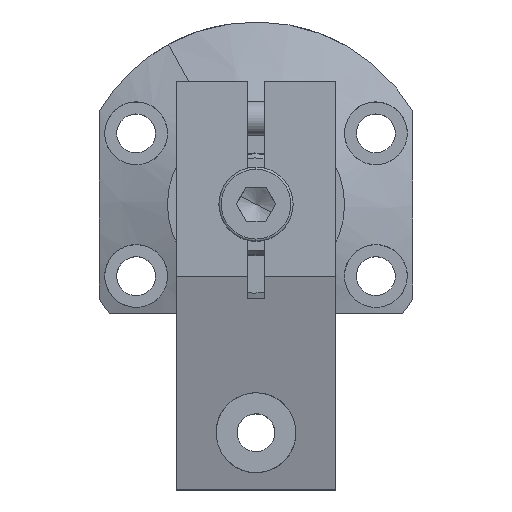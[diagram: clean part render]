
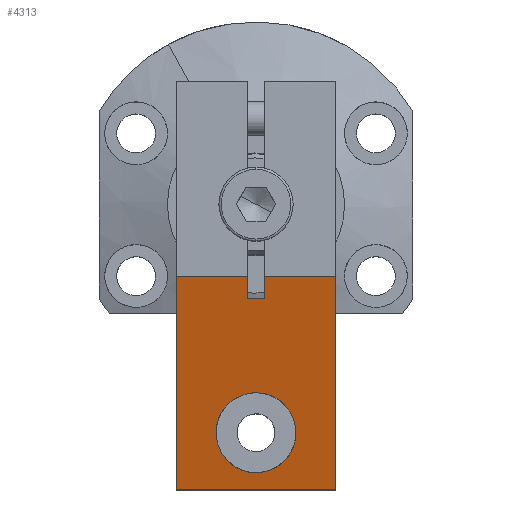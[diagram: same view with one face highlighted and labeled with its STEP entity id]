
A CAD part, top view. The second image highlights one B-rep face of the part: STEP entity #4313.
In plain terms, the highlighted planar face has unit normal (0, -0.259, 0.966) as drawn and (0, 0.259, 0.966) by its records, which use the part's own axes.
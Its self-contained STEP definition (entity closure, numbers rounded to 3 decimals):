
#3445=CARTESIAN_POINT('Line Origine',(-7.75,34.179,28.)) ;
#3449=CARTESIAN_POINT('Vertex',(-14.,34.179,28.)) ;
#3451=CARTESIAN_POINT('Vertex',(-1.5,34.179,28.)) ;
#3654=CARTESIAN_POINT('Vertex',(1.5,34.179,28.)) ;
#3657=CARTESIAN_POINT('Line Origine',(1.5,36.09,27.488)) ;
#3661=CARTESIAN_POINT('Vertex',(1.5,38.,26.976)) ;
#3712=CARTESIAN_POINT('Line Origine',(0.,38.,26.976)) ;
#3716=CARTESIAN_POINT('Vertex',(-1.5,38.,26.976)) ;
#3749=CARTESIAN_POINT('Vertex',(14.,34.179,28.)) ;
#3752=CARTESIAN_POINT('Line Origine',(7.75,34.179,28.)) ;
#3835=CARTESIAN_POINT('Control Point',(-6.143,64.856,19.78)) ;
#3836=CARTESIAN_POINT('Control Point',(-5.816,65.455,19.62)) ;
#3837=CARTESIAN_POINT('Control Point',(-5.415,66.016,19.469)) ;
#3838=CARTESIAN_POINT('Control Point',(-4.945,66.527,19.332)) ;
#3839=CARTESIAN_POINT('Control Point',(-3.368,67.864,18.974)) ;
#3840=CARTESIAN_POINT('Control Point',(-1.355,68.581,18.782)) ;
#3841=CARTESIAN_POINT('Control Point',(0.086,68.71,18.748)) ;
#3842=CARTESIAN_POINT('Control Point',(2.54,68.301,18.857)) ;
#3843=CARTESIAN_POINT('Control Point',(4.564,66.956,19.218)) ;
#3844=CARTESIAN_POINT('Control Point',(5.309,66.231,19.412)) ;
#3845=CARTESIAN_POINT('Control Point',(6.684,64.294,19.931)) ;
#3846=CARTESIAN_POINT('Control Point',(7.173,61.969,20.554)) ;
#3847=CARTESIAN_POINT('Control Point',(7.134,60.61,20.918)) ;
#3848=CARTESIAN_POINT('Control Point',(6.778,59.306,21.267)) ;
#3849=CARTESIAN_POINT('Control Point',(6.143,58.144,21.579)) ;
#3850=CARTESIAN_POINT('Vertex',(-6.143,64.856,19.78)) ;
#3852=CARTESIAN_POINT('Vertex',(6.143,58.144,21.579)) ;
#3882=CARTESIAN_POINT('Control Point',(6.143,58.144,21.579)) ;
#3883=CARTESIAN_POINT('Control Point',(5.498,56.964,21.895)) ;
#3884=CARTESIAN_POINT('Control Point',(4.565,55.93,22.172)) ;
#3885=CARTESIAN_POINT('Control Point',(3.382,55.134,22.385)) ;
#3886=CARTESIAN_POINT('Control Point',(1.307,54.406,22.58)) ;
#3887=CARTESIAN_POINT('Control Point',(-0.85,54.489,22.558)) ;
#3888=CARTESIAN_POINT('Control Point',(-1.604,54.623,22.522)) ;
#3889=CARTESIAN_POINT('Control Point',(-3.322,55.175,22.374)) ;
#3890=CARTESIAN_POINT('Control Point',(-4.782,56.233,22.091)) ;
#3891=CARTESIAN_POINT('Control Point',(-5.497,56.989,21.888)) ;
#3892=CARTESIAN_POINT('Control Point',(-6.759,58.93,21.368)) ;
#3893=CARTESIAN_POINT('Control Point',(-7.166,61.208,20.758)) ;
#3894=CARTESIAN_POINT('Control Point',(-7.102,62.503,20.411)) ;
#3895=CARTESIAN_POINT('Control Point',(-6.75,63.745,20.078)) ;
#3896=CARTESIAN_POINT('Control Point',(-6.143,64.856,19.78)) ;
#4168=CARTESIAN_POINT('Vertex',(14.,71.5,18.)) ;
#4171=CARTESIAN_POINT('Line Origine',(14.,52.84,23.)) ;
#4204=CARTESIAN_POINT('Vertex',(-14.,71.5,18.)) ;
#4207=CARTESIAN_POINT('Line Origine',(0.,71.5,18.)) ;
#4262=CARTESIAN_POINT('Line Origine',(-1.5,36.09,27.488)) ;
#4289=CARTESIAN_POINT('Axis2P3D Location',(0.,71.5,18.)) ;
#4294=CARTESIAN_POINT('Line Origine',(-14.,52.84,23.)) ;
#3446=DIRECTION('Vector Direction',(1.,0.,0.)) ;
#3658=DIRECTION('Vector Direction',(0.,0.966,-0.259)) ;
#3713=DIRECTION('Vector Direction',(1.,0.,0.)) ;
#3753=DIRECTION('Vector Direction',(1.,0.,0.)) ;
#4172=DIRECTION('Vector Direction',(0.,-0.966,0.259)) ;
#4208=DIRECTION('Vector Direction',(1.,0.,0.)) ;
#4263=DIRECTION('Vector Direction',(0.,0.966,-0.259)) ;
#4290=DIRECTION('Axis2P3D Direction',(-0.,0.259,0.966)) ;
#4291=DIRECTION('Axis2P3D XDirection',(0.,-0.966,0.259)) ;
#4295=DIRECTION('Vector Direction',(0.,-0.966,0.259)) ;
#4292=AXIS2_PLACEMENT_3D('Plane Axis2P3D',#4289,#4290,#4291) ;
#4300=ORIENTED_EDGE('',*,*,#3756,.T.) ;
#4301=ORIENTED_EDGE('',*,*,#4175,.F.) ;
#4302=ORIENTED_EDGE('',*,*,#4211,.F.) ;
#4303=ORIENTED_EDGE('',*,*,#4298,.T.) ;
#4304=ORIENTED_EDGE('',*,*,#3453,.T.) ;
#4305=ORIENTED_EDGE('',*,*,#4266,.T.) ;
#4306=ORIENTED_EDGE('',*,*,#3718,.T.) ;
#4307=ORIENTED_EDGE('',*,*,#3663,.F.) ;
#4310=ORIENTED_EDGE('',*,*,#3854,.T.) ;
#4311=ORIENTED_EDGE('',*,*,#3897,.T.) ;
#4312=FACE_BOUND('',#4309,.T.) ;
#3447=VECTOR('Line Direction',#3446,1.) ;
#3659=VECTOR('Line Direction',#3658,1.) ;
#3714=VECTOR('Line Direction',#3713,1.) ;
#3754=VECTOR('Line Direction',#3753,1.) ;
#4173=VECTOR('Line Direction',#4172,1.) ;
#4209=VECTOR('Line Direction',#4208,1.) ;
#4264=VECTOR('Line Direction',#4263,1.) ;
#4296=VECTOR('Line Direction',#4295,1.) ;
#4313=ADVANCED_FACE('PartBody',(#4308,#4312),#4293,.T.) ;
#3834=B_SPLINE_CURVE_WITH_KNOTS('',5,(#3835,#3836,#3837,#3838,#3839,#3840,#3841,#3842,#3843,#3844,#3845,#3846,#3847,#3848,#3849),.UNSPECIFIED.,.F.,.U.,(6,3,3,3,6),(0.,4.956,14.722,22.034,31.651),.UNSPECIFIED.) ;
#3881=B_SPLINE_CURVE_WITH_KNOTS('',5,(#3882,#3883,#3884,#3885,#3886,#3887,#3888,#3889,#3890,#3891,#3892,#3893,#3894,#3895,#3896),.UNSPECIFIED.,.F.,.U.,(6,3,3,3,6),(0.,9.771,15.122,22.452,31.651),.UNSPECIFIED.) ;
#3453=EDGE_CURVE('',#3450,#3452,#3448,.T.) ;
#3663=EDGE_CURVE('',#3655,#3662,#3660,.T.) ;
#3718=EDGE_CURVE('',#3717,#3662,#3715,.T.) ;
#3756=EDGE_CURVE('',#3655,#3750,#3755,.T.) ;
#3854=EDGE_CURVE('',#3851,#3853,#3834,.T.) ;
#3897=EDGE_CURVE('',#3853,#3851,#3881,.T.) ;
#4175=EDGE_CURVE('',#4169,#3750,#4174,.T.) ;
#4211=EDGE_CURVE('',#4205,#4169,#4210,.T.) ;
#4266=EDGE_CURVE('',#3452,#3717,#4265,.T.) ;
#4298=EDGE_CURVE('',#4205,#3450,#4297,.T.) ;
#4299=EDGE_LOOP('',(#4300,#4301,#4302,#4303,#4304,#4305,#4306,#4307)) ;
#4309=EDGE_LOOP('',(#4310,#4311)) ;
#4308=FACE_OUTER_BOUND('',#4299,.T.) ;
#3448=LINE('Line',#3445,#3447) ;
#3660=LINE('Line',#3657,#3659) ;
#3715=LINE('Line',#3712,#3714) ;
#3755=LINE('Line',#3752,#3754) ;
#4174=LINE('Line',#4171,#4173) ;
#4210=LINE('Line',#4207,#4209) ;
#4265=LINE('Line',#4262,#4264) ;
#4297=LINE('Line',#4294,#4296) ;
#4293=PLANE('Plane',#4292) ;
#3450=VERTEX_POINT('',#3449) ;
#3452=VERTEX_POINT('',#3451) ;
#3655=VERTEX_POINT('',#3654) ;
#3662=VERTEX_POINT('',#3661) ;
#3717=VERTEX_POINT('',#3716) ;
#3750=VERTEX_POINT('',#3749) ;
#3851=VERTEX_POINT('',#3850) ;
#3853=VERTEX_POINT('',#3852) ;
#4169=VERTEX_POINT('',#4168) ;
#4205=VERTEX_POINT('',#4204) ;
